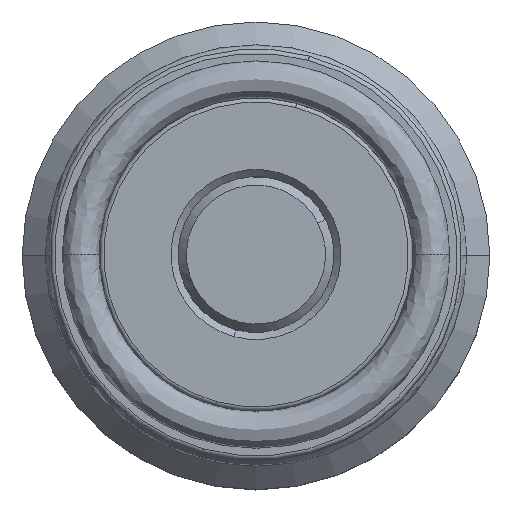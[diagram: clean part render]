
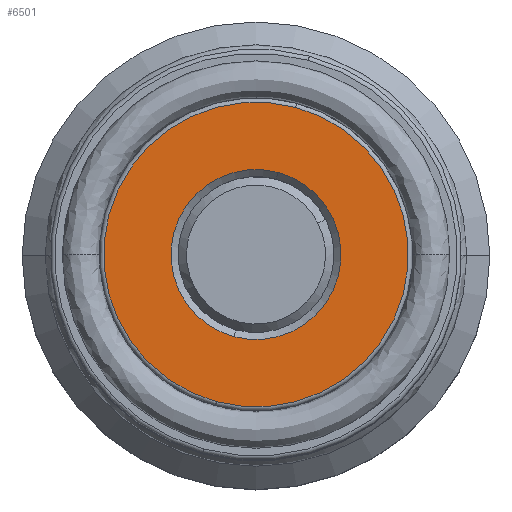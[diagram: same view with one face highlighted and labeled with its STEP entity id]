
A CAD part, top view. The second image highlights one B-rep face of the part: STEP entity #6501.
In plain terms, the highlighted planar face has unit normal (0, 0, 1).
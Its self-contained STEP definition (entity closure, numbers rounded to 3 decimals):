
#302 = EDGE_LOOP ( 'NONE', ( #8477, #5201 ) ) ;
#528 = ORIENTED_EDGE ( 'NONE', *, *, #2416, .T. ) ;
#715 = EDGE_CURVE ( 'NONE', #1903, #12340, #1311, .T. ) ;
#1311 = CIRCLE ( 'NONE', #8748, 10.75 ) ;
#1849 = CARTESIAN_POINT ( 'NONE',  ( 0., 0., -6.5 ) ) ;
#1903 = VERTEX_POINT ( 'NONE', #6392 ) ;
#1919 = DIRECTION ( 'NONE',  ( 0.26, 0.966, 0. ) ) ;
#1941 = DIRECTION ( 'NONE',  ( 0., 0., 1. ) ) ;
#1957 = CARTESIAN_POINT ( 'NONE',  ( 0., 0., -6.5 ) ) ;
#2060 = EDGE_CURVE ( 'NONE', #6254, #4414, #11592, .T. ) ;
#2062 = DIRECTION ( 'NONE',  ( 0.26, 0.966, 0. ) ) ;
#2107 = DIRECTION ( 'NONE',  ( 0., 0., -1. ) ) ;
#2150 = CARTESIAN_POINT ( 'NONE',  ( 0., 0., -6.5 ) ) ;
#2416 = EDGE_CURVE ( 'NONE', #12340, #1903, #10801, .T. ) ;
#2561 = ORIENTED_EDGE ( 'NONE', *, *, #715, .T. ) ;
#2870 = DIRECTION ( 'NONE',  ( 0.26, 0.966, 0. ) ) ;
#3094 = DIRECTION ( 'NONE',  ( 0.26, 0.966, 0. ) ) ;
#3144 = DIRECTION ( 'NONE',  ( 0., 0., 1. ) ) ;
#3815 = PLANE ( 'NONE',  #6892 ) ;
#3859 = CARTESIAN_POINT ( 'NONE',  ( -2.792, -10.381, -6.5 ) ) ;
#3923 = AXIS2_PLACEMENT_3D ( 'NONE', #2150, #2107, #2062 ) ;
#4001 = FACE_BOUND ( 'NONE', #302, .T. ) ;
#4414 = VERTEX_POINT ( 'NONE', #9109 ) ;
#4527 = CARTESIAN_POINT ( 'NONE',  ( 0., 0., -6.5 ) ) ;
#5201 = ORIENTED_EDGE ( 'NONE', *, *, #2060, .T. ) ;
#5526 = DIRECTION ( 'NONE',  ( 0.26, 0.966, 0. ) ) ;
#5969 = CARTESIAN_POINT ( 'NONE',  ( 0., 0., -6.5 ) ) ;
#6254 = VERTEX_POINT ( 'NONE', #11241 ) ;
#6319 = EDGE_CURVE ( 'NONE', #4414, #6254, #11515, .T. ) ;
#6392 = CARTESIAN_POINT ( 'NONE',  ( 2.792, 10.381, -6.5 ) ) ;
#6501 = ADVANCED_FACE ( 'NONE', ( #4001, #11649 ), #3815, .T. ) ;
#6658 = EDGE_LOOP ( 'NONE', ( #2561, #528 ) ) ;
#6892 = AXIS2_PLACEMENT_3D ( 'NONE', #1849, #8818, #2870 ) ;
#7150 = AXIS2_PLACEMENT_3D ( 'NONE', #4527, #11508, #5526 ) ;
#7186 = AXIS2_PLACEMENT_3D ( 'NONE', #5969, #3144, #3094 ) ;
#8477 = ORIENTED_EDGE ( 'NONE', *, *, #6319, .T. ) ;
#8748 = AXIS2_PLACEMENT_3D ( 'NONE', #1957, #1941, #1919 ) ;
#8818 = DIRECTION ( 'NONE',  ( 0., 0., 1. ) ) ;
#9109 = CARTESIAN_POINT ( 'NONE',  ( 1.559, 5.794, -6.5 ) ) ;
#10801 = CIRCLE ( 'NONE', #7186, 10.75 ) ;
#11241 = CARTESIAN_POINT ( 'NONE',  ( -1.559, -5.794, -6.5 ) ) ;
#11508 = DIRECTION ( 'NONE',  ( 0., 0., -1. ) ) ;
#11515 = CIRCLE ( 'NONE', #7150, 6. ) ;
#11592 = CIRCLE ( 'NONE', #3923, 6. ) ;
#11649 = FACE_OUTER_BOUND ( 'NONE', #6658, .T. ) ;
#12340 = VERTEX_POINT ( 'NONE', #3859 ) ;
